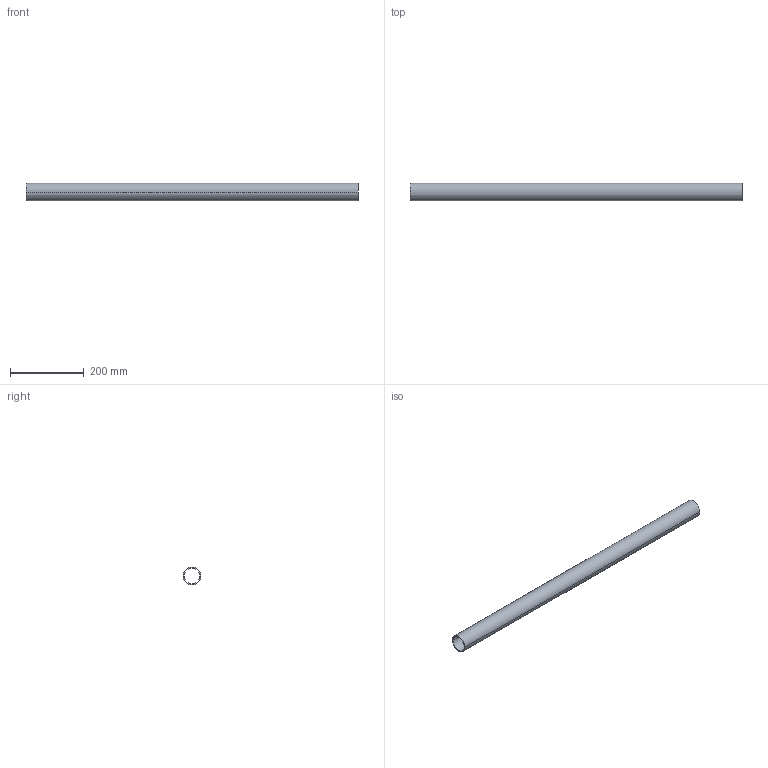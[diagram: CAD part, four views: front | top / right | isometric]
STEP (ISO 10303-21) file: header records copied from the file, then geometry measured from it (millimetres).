
FILE_DESCRIPTION (( 'STEP AP214' ), '1' );
FILE_NAME ('CCJ029-REP.213 - MAIN COURANTE PLANCHER INFERIEUR C3-C4.STEP', '2024-01-10T14:57:10', ( '' ), ( '' ), 'SwSTEP 2.0', 'SolidWorks 2021', '' );
FILE_SCHEMA (( 'AUTOMOTIVE_DESIGN' ));
Length unit declared in the file: millimetre
Products named in the file (1): CCJ029-REP.213 - MAIN COURANTE PLANCHER INFERIEUR C3-C4
Bounding box: 900 x 48.3 x 48.3 mm (x, y, z)
Volume: 323741.1 mm3; surface area: 259712.3 mm2
Topology: 1 solids, 1 shells, 6 faces, 12 edges, 8 vertices
Faces by surface type: cylinder 4, plane 2
Entity records: 202 total; most frequent: DIRECTION 34, CARTESIAN_POINT 27, ORIENTED_EDGE 24, AXIS2_PLACEMENT_3D 15, EDGE_CURVE 12, CIRCLE 8, EDGE_LOOP 8, VERTEX_POINT 8
